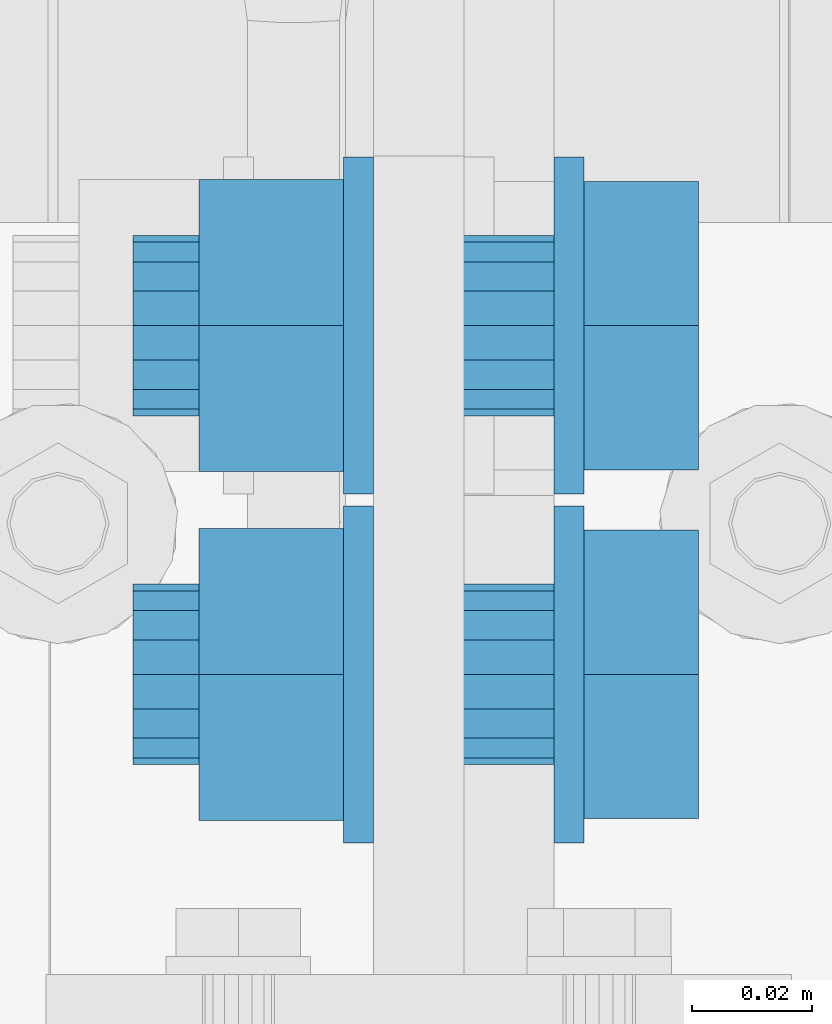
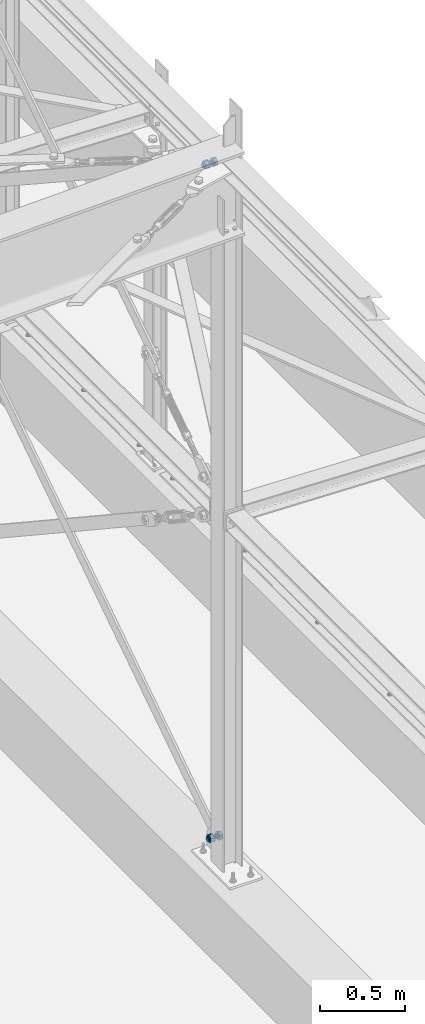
# One storey, part 147 of 476: 2 mechanical fasteners.
"""IFC2X3 building model written with IfcOpenShell, lengths in millimetres."""

from ifc_helpers import new_model, entity, si_unit, converted_unit, origin_with_axes, place, context, project, spatial, faceted_brep, element, save


model = new_model("IFC2X3")

# Units and contexts
model_context = context("Model", 3, precision=1e-09, world=origin_with_axes())
ifc_project = project(units=[si_unit("LENGTHUNIT", "METRE", prefix="MILLI"), si_unit("AREAUNIT", "SQUARE_METRE"), si_unit("VOLUMEUNIT", "CUBIC_METRE"), converted_unit("PLANEANGLEUNIT", "DEGREE", entity("IfcPlaneAngleMeasure", 0.01745329), si_unit("PLANEANGLEUNIT", "RADIAN"), dimensions=[0, 0, 0, 0, 0, 0, 0])], contexts=[model_context])

# Site, building, storey
site_placement = place(None, origin_with_axes())
site = spatial("IfcSite", under=ifc_project, at=site_placement, Name="mKR Teilneubau & Sanierung BA1 - Ostfildern", CompositionType="ELEMENT")
building_placement = place(site_placement, origin_with_axes())
building = spatial("IfcBuilding", under=site, at=building_placement, Name="Struktur 1", CompositionType="ELEMENT")
storey_placement = place(building_placement, origin_with_axes())
storey = spatial("IfcBuildingStorey", under=building, at=storey_placement, Name="Default Storey", CompositionType="ELEMENT", Elevation=0.0)

# Mechanical fasteners
mechanical_fastener_1_placement = place(None, origin_with_axes())
element("IfcMechanicalFastener", 1, at=mechanical_fastener_1_placement, inside=storey, ObjectType="-", NominalDiameter=30.0, NominalLength=75.0, context=model_context, shape_type="Brep", body=[
    faceted_brep([(21988.108765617, -9585.781922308, 5435.608171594), (21993.108765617, -9585.781922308, 5435.608171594), (21993.108765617, -9585.24391016, 5441.070700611), (21988.108765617, -9585.24391016, 5441.070700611), (21993.108765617, -9583.650549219, 5446.3233077), (21988.108765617, -9583.650549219, 5446.3233077), (21993.108765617, -9581.063071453, 5451.164138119), (21988.108765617, -9581.063071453, 5451.164138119), (21993.108765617, -9577.580912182, 5455.407161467), (21988.108765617, -9577.580912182, 5455.407161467), (21993.108765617, -9573.337888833, 5458.889320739), (21988.108765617, -9573.337888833, 5458.889320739), (21993.108765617, -9568.497058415, 5461.476798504), (21988.108765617, -9568.497058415, 5461.476798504), (21993.108765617, -9563.244451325, 5463.070159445), (21988.108765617, -9563.244451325, 5463.070159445), (21993.108765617, -9557.781922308, 5463.608171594), (21988.108765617, -9557.781922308, 5463.608171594), (21993.108765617, -9552.319393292, 5463.070159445), (21988.108765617, -9552.319393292, 5463.070159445), (21993.108765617, -9547.066786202, 5461.476798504), (21988.108765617, -9547.066786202, 5461.476798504), (21993.108765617, -9542.225955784, 5458.889320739), (21988.108765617, -9542.225955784, 5458.889320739), (21993.108765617, -9537.982932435, 5455.407161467), (21988.108765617, -9537.982932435, 5455.407161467), (21993.108765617, -9534.500773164, 5451.164138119), (21988.108765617, -9534.500773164, 5451.164138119), (21993.108765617, -9531.913295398, 5446.3233077), (21988.108765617, -9531.913295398, 5446.3233077), (21993.108765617, -9530.319934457, 5441.070700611), (21988.108765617, -9530.319934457, 5441.070700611), (21993.108765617, -9529.781922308, 5435.608171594), (21988.108765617, -9529.781922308, 5435.608171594), (21993.108765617, -9530.319934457, 5430.145642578), (21988.108765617, -9530.319934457, 5430.145642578), (21993.108765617, -9531.913295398, 5424.893035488), (21988.108765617, -9531.913295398, 5424.893035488), (21993.108765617, -9534.500773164, 5420.05220507), (21988.108765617, -9534.500773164, 5420.05220507), (21993.108765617, -9537.982932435, 5415.809181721), (21988.108765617, -9537.982932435, 5415.809181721), (21993.108765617, -9542.225955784, 5412.32702245), (21988.108765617, -9542.225955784, 5412.32702245), (21993.108765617, -9547.066786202, 5409.739544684), (21988.108765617, -9547.066786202, 5409.739544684), (21993.108765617, -9552.319393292, 5408.146183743), (21988.108765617, -9552.319393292, 5408.146183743), (21993.108765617, -9557.781922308, 5407.608171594), (21988.108765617, -9557.781922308, 5407.608171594), (21993.108765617, -9563.244451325, 5408.146183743), (21988.108765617, -9563.244451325, 5408.146183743), (21993.108765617, -9568.497058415, 5409.739544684), (21988.108765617, -9568.497058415, 5409.739544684), (21993.108765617, -9573.337888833, 5412.32702245), (21988.108765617, -9573.337888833, 5412.32702245), (21993.108765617, -9577.580912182, 5415.809181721), (21988.108765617, -9577.580912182, 5415.809181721), (21993.108765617, -9581.063071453, 5420.05220507), (21988.108765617, -9581.063071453, 5420.05220507), (21993.108765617, -9583.650549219, 5424.893035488), (21988.108765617, -9583.650549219, 5424.893035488), (21993.108765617, -9585.24391016, 5430.145642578), (21988.108765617, -9585.24391016, 5430.145642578)], [[[0, 1, 2, 3]], [[3, 2, 4, 5]], [[5, 4, 6, 7]], [[7, 6, 8, 9]], [[9, 8, 10, 11]], [[11, 10, 12, 13]], [[13, 12, 14, 15]], [[15, 14, 16, 17]], [[17, 16, 18, 19]], [[19, 18, 20, 21]], [[21, 20, 22, 23]], [[23, 22, 24, 25]], [[25, 24, 26, 27]], [[27, 26, 28, 29]], [[29, 28, 30, 31]], [[31, 30, 32, 33]], [[33, 32, 34, 35]], [[35, 34, 36, 37]], [[37, 36, 38, 39]], [[39, 38, 40, 41]], [[41, 40, 42, 43]], [[43, 42, 44, 45]], [[45, 44, 46, 47]], [[47, 46, 48, 49]], [[49, 48, 50, 51]], [[51, 50, 52, 53]], [[53, 52, 54, 55]], [[55, 54, 56, 57]], [[57, 56, 58, 59]], [[59, 58, 60, 61]], [[61, 60, 62, 63]], [[63, 62, 1, 0]], [[2, 1, 62, 60, 58, 56, 54, 52, 50, 48, 46, 44, 42, 40, 38, 36, 34, 32, 30, 28, 26, 24, 22, 20, 18, 16, 14, 12, 10, 8, 6, 4]], [[63, 0, 3, 5, 7, 9, 11, 13, 15, 17, 19, 21, 23, 25, 27, 29, 31, 33, 35, 37, 39, 41, 43, 45, 47, 49, 51, 53, 55, 57, 59, 61]]]),
    faceted_brep([(22012.108765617, -9533.806009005, 5449.450671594), (21993.108765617, -9533.806009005, 5449.450671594), (21993.108765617, -9557.781922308, 5463.293171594), (22012.108765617, -9557.781922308, 5463.293171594), (21993.108765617, -9581.757835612, 5449.450671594), (22012.108765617, -9581.757835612, 5449.450671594), (21993.108765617, -9581.757835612, 5421.765671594), (22012.108765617, -9581.757835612, 5421.765671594), (21993.108765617, -9557.781922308, 5407.923171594), (22012.108765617, -9557.781922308, 5407.923171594), (21993.108765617, -9533.806009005, 5421.765671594), (22012.108765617, -9533.806009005, 5421.765671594)], [[[0, 1, 2, 3]], [[3, 2, 4, 5]], [[5, 4, 6, 7]], [[7, 6, 8, 9]], [[9, 8, 10, 11]], [[11, 10, 1, 0]], [[3, 5, 7, 9, 11, 0]], [[2, 1, 10, 8, 6, 4]]]),
    faceted_brep([(21958.108780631, -9572.781922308, 5435.608171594), (21988.10885553, -9572.781922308, 5435.608171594), (21988.10885553, -9571.640115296, 5441.34842308), (21958.108780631, -9571.640115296, 5441.34842308), (21988.10885553, -9568.388524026, 5446.214773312), (21958.108780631, -9568.388524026, 5446.214773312), (21988.10885553, -9563.522173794, 5449.466364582), (21958.108780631, -9563.522173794, 5449.466364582), (21988.10885553, -9557.781922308, 5450.608171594), (21958.108780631, -9557.781922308, 5450.608171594), (21988.10885553, -9552.041670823, 5449.466364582), (21958.108780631, -9552.041670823, 5449.466364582), (21988.10885553, -9547.175320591, 5446.214773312), (21958.108780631, -9547.175320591, 5446.214773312), (21988.10885553, -9543.923729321, 5441.34842308), (21958.108780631, -9543.923729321, 5441.34842308), (21988.10885553, -9542.781922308, 5435.608171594), (21958.108780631, -9542.781922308, 5435.608171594), (21988.10885553, -9543.923729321, 5429.867920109), (21958.108780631, -9543.923729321, 5429.867920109), (21988.10885553, -9547.175320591, 5425.001569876), (21958.108780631, -9547.175320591, 5425.001569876), (21988.10885553, -9552.041670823, 5421.749978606), (21958.108780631, -9552.041670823, 5421.749978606), (21988.10885553, -9557.781922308, 5420.608171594), (21958.108780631, -9557.781922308, 5420.608171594), (21988.10885553, -9563.522173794, 5421.749978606), (21958.108780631, -9563.522173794, 5421.749978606), (21988.10885553, -9568.388524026, 5425.001569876), (21958.108780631, -9568.388524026, 5425.001569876), (21988.10885553, -9571.640115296, 5429.867920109), (21958.108780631, -9571.640115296, 5429.867920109)], [[[0, 1, 2, 3]], [[3, 2, 4, 5]], [[5, 4, 6, 7]], [[7, 6, 8, 9]], [[9, 8, 10, 11]], [[11, 10, 12, 13]], [[13, 12, 14, 15]], [[15, 14, 16, 17]], [[17, 16, 18, 19]], [[19, 18, 20, 21]], [[21, 20, 22, 23]], [[23, 22, 24, 25]], [[25, 24, 26, 27]], [[27, 26, 28, 29]], [[29, 28, 30, 31]], [[31, 30, 1, 0]], [[2, 1, 30, 28, 26, 24, 22, 20, 18, 16, 14, 12, 10, 8, 6, 4]], [[31, 0, 3, 5, 7, 9, 11, 13, 15, 17, 19, 21, 23, 25, 27, 29]]]),
    faceted_brep([(21953.108780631, -9585.781922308, 5435.608171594), (21958.108780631, -9585.781922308, 5435.608171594), (21958.108780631, -9585.24391016, 5441.070700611), (21953.108780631, -9585.24391016, 5441.070700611), (21958.108780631, -9583.650549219, 5446.3233077), (21953.108780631, -9583.650549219, 5446.3233077), (21958.108780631, -9581.063071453, 5451.164138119), (21953.108780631, -9581.063071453, 5451.164138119), (21958.108780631, -9577.580912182, 5455.407161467), (21953.108780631, -9577.580912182, 5455.407161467), (21958.108780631, -9573.337888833, 5458.889320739), (21953.108780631, -9573.337888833, 5458.889320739), (21958.108780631, -9568.497058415, 5461.476798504), (21953.108780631, -9568.497058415, 5461.476798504), (21958.108780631, -9563.244451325, 5463.070159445), (21953.108780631, -9563.244451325, 5463.070159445), (21958.108780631, -9557.781922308, 5463.608171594), (21953.108780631, -9557.781922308, 5463.608171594), (21958.108780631, -9552.319393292, 5463.070159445), (21953.108780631, -9552.319393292, 5463.070159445), (21958.108780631, -9547.066786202, 5461.476798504), (21953.108780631, -9547.066786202, 5461.476798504), (21958.108780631, -9542.225955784, 5458.889320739), (21953.108780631, -9542.225955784, 5458.889320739), (21958.108780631, -9537.982932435, 5455.407161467), (21953.108780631, -9537.982932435, 5455.407161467), (21958.108780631, -9534.500773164, 5451.164138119), (21953.108780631, -9534.500773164, 5451.164138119), (21958.108780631, -9531.913295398, 5446.3233077), (21953.108780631, -9531.913295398, 5446.3233077), (21958.108780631, -9530.319934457, 5441.070700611), (21953.108780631, -9530.319934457, 5441.070700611), (21958.108780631, -9529.781922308, 5435.608171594), (21953.108780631, -9529.781922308, 5435.608171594), (21958.108780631, -9530.319934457, 5430.145642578), (21953.108780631, -9530.319934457, 5430.145642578), (21958.108780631, -9531.913295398, 5424.893035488), (21953.108780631, -9531.913295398, 5424.893035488), (21958.108780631, -9534.500773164, 5420.05220507), (21953.108780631, -9534.500773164, 5420.05220507), (21958.108780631, -9537.982932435, 5415.809181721), (21953.108780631, -9537.982932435, 5415.809181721), (21958.108780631, -9542.225955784, 5412.32702245), (21953.108780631, -9542.225955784, 5412.32702245), (21958.108780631, -9547.066786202, 5409.739544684), (21953.108780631, -9547.066786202, 5409.739544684), (21958.108780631, -9552.319393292, 5408.146183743), (21953.108780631, -9552.319393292, 5408.146183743), (21958.108780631, -9557.781922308, 5407.608171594), (21953.108780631, -9557.781922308, 5407.608171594), (21958.108780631, -9563.244451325, 5408.146183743), (21953.108780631, -9563.244451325, 5408.146183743), (21958.108780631, -9568.497058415, 5409.739544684), (21953.108780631, -9568.497058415, 5409.739544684), (21958.108780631, -9573.337888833, 5412.32702245), (21953.108780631, -9573.337888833, 5412.32702245), (21958.108780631, -9577.580912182, 5415.809181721), (21953.108780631, -9577.580912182, 5415.809181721), (21958.108780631, -9581.063071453, 5420.05220507), (21953.108780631, -9581.063071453, 5420.05220507), (21958.108780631, -9583.650549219, 5424.893035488), (21953.108780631, -9583.650549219, 5424.893035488), (21958.108780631, -9585.24391016, 5430.145642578), (21953.108780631, -9585.24391016, 5430.145642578)], [[[0, 1, 2, 3]], [[3, 2, 4, 5]], [[5, 4, 6, 7]], [[7, 6, 8, 9]], [[9, 8, 10, 11]], [[11, 10, 12, 13]], [[13, 12, 14, 15]], [[15, 14, 16, 17]], [[17, 16, 18, 19]], [[19, 18, 20, 21]], [[21, 20, 22, 23]], [[23, 22, 24, 25]], [[25, 24, 26, 27]], [[27, 26, 28, 29]], [[29, 28, 30, 31]], [[31, 30, 32, 33]], [[33, 32, 34, 35]], [[35, 34, 36, 37]], [[37, 36, 38, 39]], [[39, 38, 40, 41]], [[41, 40, 42, 43]], [[43, 42, 44, 45]], [[45, 44, 46, 47]], [[47, 46, 48, 49]], [[49, 48, 50, 51]], [[51, 50, 52, 53]], [[53, 52, 54, 55]], [[55, 54, 56, 57]], [[57, 56, 58, 59]], [[59, 58, 60, 61]], [[61, 60, 62, 63]], [[63, 62, 1, 0]], [[2, 1, 62, 60, 58, 56, 54, 52, 50, 48, 46, 44, 42, 40, 38, 36, 34, 32, 30, 28, 26, 24, 22, 20, 18, 16, 14, 12, 10, 8, 6, 4]], [[63, 0, 3, 5, 7, 9, 11, 13, 15, 17, 19, 21, 23, 25, 27, 29, 31, 33, 35, 37, 39, 41, 43, 45, 47, 49, 51, 53, 55, 57, 59, 61]]]),
    faceted_brep([(21953.108780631, -9533.533211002, 5449.608171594), (21929.108780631, -9533.533211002, 5449.608171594), (21929.108780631, -9557.781922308, 5463.608171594), (21953.108780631, -9557.781922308, 5463.608171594), (21929.108780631, -9582.030633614, 5449.608171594), (21953.108780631, -9582.030633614, 5449.608171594), (21929.108780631, -9582.030633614, 5421.608171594), (21953.108780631, -9582.030633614, 5421.608171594), (21929.108780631, -9557.781922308, 5407.608171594), (21953.108780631, -9557.781922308, 5407.608171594), (21929.108780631, -9533.533211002, 5421.608171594), (21953.108780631, -9533.533211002, 5421.608171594)], [[[0, 1, 2, 3]], [[3, 2, 4, 5]], [[5, 4, 6, 7]], [[7, 6, 8, 9]], [[9, 8, 10, 11]], [[11, 10, 1, 0]], [[3, 5, 7, 9, 11, 0]], [[2, 1, 10, 8, 6, 4]]]),
    faceted_brep([(21918.108765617, -9572.781922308, 5435.608171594), (21929.108765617, -9572.781922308, 5435.608171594), (21929.108765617, -9571.640115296, 5441.34842308), (21918.108765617, -9571.640115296, 5441.34842308), (21929.108765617, -9568.388524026, 5446.214773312), (21918.108765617, -9568.388524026, 5446.214773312), (21929.108765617, -9563.522173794, 5449.466364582), (21918.108765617, -9563.522173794, 5449.466364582), (21929.108765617, -9557.781922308, 5450.608171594), (21918.108765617, -9557.781922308, 5450.608171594), (21929.108765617, -9552.041670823, 5449.466364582), (21918.108765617, -9552.041670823, 5449.466364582), (21929.108765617, -9547.175320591, 5446.214773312), (21918.108765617, -9547.175320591, 5446.214773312), (21929.108765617, -9543.923729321, 5441.34842308), (21918.108765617, -9543.923729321, 5441.34842308), (21929.108765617, -9542.781922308, 5435.608171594), (21918.108765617, -9542.781922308, 5435.608171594), (21929.108765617, -9543.923729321, 5429.867920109), (21918.108765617, -9543.923729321, 5429.867920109), (21929.108765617, -9547.175320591, 5425.001569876), (21918.108765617, -9547.175320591, 5425.001569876), (21929.108765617, -9552.041670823, 5421.749978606), (21918.108765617, -9552.041670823, 5421.749978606), (21929.108765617, -9557.781922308, 5420.608171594), (21918.108765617, -9557.781922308, 5420.608171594), (21929.108765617, -9563.522173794, 5421.749978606), (21918.108765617, -9563.522173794, 5421.749978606), (21929.108765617, -9568.388524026, 5425.001569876), (21918.108765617, -9568.388524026, 5425.001569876), (21929.108765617, -9571.640115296, 5429.867920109), (21918.108765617, -9571.640115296, 5429.867920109)], [[[0, 1, 2, 3]], [[3, 2, 4, 5]], [[5, 4, 6, 7]], [[7, 6, 8, 9]], [[9, 8, 10, 11]], [[11, 10, 12, 13]], [[13, 12, 14, 15]], [[15, 14, 16, 17]], [[17, 16, 18, 19]], [[19, 18, 20, 21]], [[21, 20, 22, 23]], [[23, 22, 24, 25]], [[25, 24, 26, 27]], [[27, 26, 28, 29]], [[29, 28, 30, 31]], [[31, 30, 1, 0]], [[2, 1, 30, 28, 26, 24, 22, 20, 18, 16, 14, 12, 10, 8, 6, 4]], [[31, 0, 3, 5, 7, 9, 11, 13, 15, 17, 19, 21, 23, 25, 27, 29]]]),
])
mechanical_fastener_2_placement = place(None, origin_with_axes())
element("IfcMechanicalFastener", 2, at=mechanical_fastener_2_placement, inside=storey, ObjectType="-", NominalDiameter=30.0, NominalLength=75.0, context=model_context, shape_type="Brep", body=[
    faceted_brep([(21988.110161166, -9643.784342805, 644.074930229), (21993.110161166, -9643.784342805, 644.074930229), (21993.110161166, -9643.246330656, 649.537459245), (21988.110161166, -9643.246330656, 649.537459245), (21993.110161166, -9641.652969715, 654.790066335), (21988.110161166, -9641.652969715, 654.790066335), (21993.110161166, -9639.065491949, 659.630896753), (21988.110161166, -9639.065491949, 659.630896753), (21993.110161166, -9635.583332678, 663.873920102), (21988.110161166, -9635.583332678, 663.873920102), (21993.110161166, -9631.340309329, 667.356079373), (21988.110161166, -9631.340309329, 667.356079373), (21993.110161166, -9626.499478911, 669.943557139), (21988.110161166, -9626.499478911, 669.943557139), (21993.110161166, -9621.246871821, 671.53691808), (21988.110161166, -9621.246871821, 671.53691808), (21993.110161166, -9615.784342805, 672.074930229), (21988.110161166, -9615.784342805, 672.074930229), (21993.110161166, -9610.321813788, 671.53691808), (21988.110161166, -9610.321813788, 671.53691808), (21993.110161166, -9605.069206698, 669.943557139), (21988.110161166, -9605.069206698, 669.943557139), (21993.110161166, -9600.22837628, 667.356079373), (21988.110161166, -9600.22837628, 667.356079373), (21993.110161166, -9595.985352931, 663.873920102), (21988.110161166, -9595.985352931, 663.873920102), (21993.110161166, -9592.50319366, 659.630896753), (21988.110161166, -9592.50319366, 659.630896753), (21993.110161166, -9589.915715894, 654.790066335), (21988.110161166, -9589.915715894, 654.790066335), (21993.110161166, -9588.322354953, 649.537459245), (21988.110161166, -9588.322354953, 649.537459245), (21993.110161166, -9587.784342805, 644.074930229), (21988.110161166, -9587.784342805, 644.074930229), (21993.110161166, -9588.322354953, 638.612401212), (21988.110161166, -9588.322354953, 638.612401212), (21993.110161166, -9589.915715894, 633.359794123), (21988.110161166, -9589.915715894, 633.359794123), (21993.110161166, -9592.50319366, 628.518963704), (21988.110161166, -9592.50319366, 628.518963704), (21993.110161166, -9595.985352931, 624.275940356), (21988.110161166, -9595.985352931, 624.275940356), (21993.110161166, -9600.22837628, 620.793781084), (21988.110161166, -9600.22837628, 620.793781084), (21993.110161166, -9605.069206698, 618.206303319), (21988.110161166, -9605.069206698, 618.206303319), (21993.110161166, -9610.321813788, 616.612942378), (21988.110161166, -9610.321813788, 616.612942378), (21993.110161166, -9615.784342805, 616.074930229), (21988.110161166, -9615.784342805, 616.074930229), (21993.110161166, -9621.246871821, 616.612942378), (21988.110161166, -9621.246871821, 616.612942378), (21993.110161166, -9626.499478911, 618.206303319), (21988.110161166, -9626.499478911, 618.206303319), (21993.110161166, -9631.340309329, 620.793781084), (21988.110161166, -9631.340309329, 620.793781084), (21993.110161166, -9635.583332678, 624.275940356), (21988.110161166, -9635.583332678, 624.275940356), (21993.110161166, -9639.065491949, 628.518963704), (21988.110161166, -9639.065491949, 628.518963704), (21993.110161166, -9641.652969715, 633.359794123), (21988.110161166, -9641.652969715, 633.359794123), (21993.110161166, -9643.246330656, 638.612401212), (21988.110161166, -9643.246330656, 638.612401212)], [[[0, 1, 2, 3]], [[3, 2, 4, 5]], [[5, 4, 6, 7]], [[7, 6, 8, 9]], [[9, 8, 10, 11]], [[11, 10, 12, 13]], [[13, 12, 14, 15]], [[15, 14, 16, 17]], [[17, 16, 18, 19]], [[19, 18, 20, 21]], [[21, 20, 22, 23]], [[23, 22, 24, 25]], [[25, 24, 26, 27]], [[27, 26, 28, 29]], [[29, 28, 30, 31]], [[31, 30, 32, 33]], [[33, 32, 34, 35]], [[35, 34, 36, 37]], [[37, 36, 38, 39]], [[39, 38, 40, 41]], [[41, 40, 42, 43]], [[43, 42, 44, 45]], [[45, 44, 46, 47]], [[47, 46, 48, 49]], [[49, 48, 50, 51]], [[51, 50, 52, 53]], [[53, 52, 54, 55]], [[55, 54, 56, 57]], [[57, 56, 58, 59]], [[59, 58, 60, 61]], [[61, 60, 62, 63]], [[63, 62, 1, 0]], [[2, 1, 62, 60, 58, 56, 54, 52, 50, 48, 46, 44, 42, 40, 38, 36, 34, 32, 30, 28, 26, 24, 22, 20, 18, 16, 14, 12, 10, 8, 6, 4]], [[63, 0, 3, 5, 7, 9, 11, 13, 15, 17, 19, 21, 23, 25, 27, 29, 31, 33, 35, 37, 39, 41, 43, 45, 47, 49, 51, 53, 55, 57, 59, 61]]]),
    faceted_brep([(22012.110161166, -9591.808429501, 657.917430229), (21993.110161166, -9591.808429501, 657.917430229), (21993.110161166, -9615.784342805, 671.759930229), (22012.110161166, -9615.784342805, 671.759930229), (21993.110161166, -9639.760256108, 657.917430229), (22012.110161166, -9639.760256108, 657.917430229), (21993.110161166, -9639.760256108, 630.232430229), (22012.110161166, -9639.760256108, 630.232430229), (21993.110161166, -9615.784342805, 616.389930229), (22012.110161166, -9615.784342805, 616.389930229), (21993.110161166, -9591.808429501, 630.232430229), (22012.110161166, -9591.808429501, 630.232430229)], [[[0, 1, 2, 3]], [[3, 2, 4, 5]], [[5, 4, 6, 7]], [[7, 6, 8, 9]], [[9, 8, 10, 11]], [[11, 10, 1, 0]], [[3, 5, 7, 9, 11, 0]], [[2, 1, 10, 8, 6, 4]]]),
    faceted_brep([(21958.108764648, -9630.784342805, 644.074930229), (21988.109804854, -9630.784342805, 644.074930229), (21988.109804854, -9629.642535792, 649.815181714), (21958.108764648, -9629.642535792, 649.815181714), (21988.109804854, -9626.390944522, 654.681531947), (21958.108764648, -9626.390944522, 654.681531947), (21988.109804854, -9621.52459429, 657.933123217), (21958.108764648, -9621.52459429, 657.933123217), (21988.109804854, -9615.784342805, 659.074930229), (21958.108764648, -9615.784342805, 659.074930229), (21988.109804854, -9610.044091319, 657.933123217), (21958.108764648, -9610.044091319, 657.933123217), (21988.109804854, -9605.177741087, 654.681531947), (21958.108764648, -9605.177741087, 654.681531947), (21988.109804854, -9601.926149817, 649.815181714), (21958.108764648, -9601.926149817, 649.815181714), (21988.109804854, -9600.784342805, 644.074930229), (21958.108764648, -9600.784342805, 644.074930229), (21988.109804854, -9601.926149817, 638.334678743), (21958.108764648, -9601.926149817, 638.334678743), (21988.109804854, -9605.177741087, 633.468328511), (21958.108764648, -9605.177741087, 633.468328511), (21988.109804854, -9610.044091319, 630.216737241), (21958.108764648, -9610.044091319, 630.216737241), (21988.109804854, -9615.784342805, 629.074930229), (21958.108764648, -9615.784342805, 629.074930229), (21988.109804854, -9621.52459429, 630.216737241), (21958.108764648, -9621.52459429, 630.216737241), (21988.109804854, -9626.390944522, 633.468328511), (21958.108764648, -9626.390944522, 633.468328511), (21988.109804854, -9629.642535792, 638.334678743), (21958.108764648, -9629.642535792, 638.334678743)], [[[0, 1, 2, 3]], [[3, 2, 4, 5]], [[5, 4, 6, 7]], [[7, 6, 8, 9]], [[9, 8, 10, 11]], [[11, 10, 12, 13]], [[13, 12, 14, 15]], [[15, 14, 16, 17]], [[17, 16, 18, 19]], [[19, 18, 20, 21]], [[21, 20, 22, 23]], [[23, 22, 24, 25]], [[25, 24, 26, 27]], [[27, 26, 28, 29]], [[29, 28, 30, 31]], [[31, 30, 1, 0]], [[2, 1, 30, 28, 26, 24, 22, 20, 18, 16, 14, 12, 10, 8, 6, 4]], [[31, 0, 3, 5, 7, 9, 11, 13, 15, 17, 19, 21, 23, 25, 27, 29]]]),
    faceted_brep([(21953.108764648, -9643.784342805, 644.074930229), (21958.108764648, -9643.784342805, 644.074930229), (21958.108764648, -9643.246330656, 649.537459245), (21953.108764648, -9643.246330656, 649.537459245), (21958.108764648, -9641.652969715, 654.790066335), (21953.108764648, -9641.652969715, 654.790066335), (21958.108764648, -9639.065491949, 659.630896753), (21953.108764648, -9639.065491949, 659.630896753), (21958.108764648, -9635.583332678, 663.873920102), (21953.108764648, -9635.583332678, 663.873920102), (21958.108764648, -9631.340309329, 667.356079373), (21953.108764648, -9631.340309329, 667.356079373), (21958.108764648, -9626.499478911, 669.943557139), (21953.108764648, -9626.499478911, 669.943557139), (21958.108764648, -9621.246871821, 671.53691808), (21953.108764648, -9621.246871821, 671.53691808), (21958.108764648, -9615.784342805, 672.074930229), (21953.108764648, -9615.784342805, 672.074930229), (21958.108764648, -9610.321813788, 671.53691808), (21953.108764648, -9610.321813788, 671.53691808), (21958.108764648, -9605.069206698, 669.943557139), (21953.108764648, -9605.069206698, 669.943557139), (21958.108764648, -9600.22837628, 667.356079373), (21953.108764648, -9600.22837628, 667.356079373), (21958.108764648, -9595.985352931, 663.873920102), (21953.108764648, -9595.985352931, 663.873920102), (21958.108764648, -9592.50319366, 659.630896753), (21953.108764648, -9592.50319366, 659.630896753), (21958.108764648, -9589.915715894, 654.790066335), (21953.108764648, -9589.915715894, 654.790066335), (21958.108764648, -9588.322354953, 649.537459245), (21953.108764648, -9588.322354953, 649.537459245), (21958.108764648, -9587.784342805, 644.074930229), (21953.108764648, -9587.784342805, 644.074930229), (21958.108764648, -9588.322354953, 638.612401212), (21953.108764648, -9588.322354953, 638.612401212), (21958.108764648, -9589.915715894, 633.359794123), (21953.108764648, -9589.915715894, 633.359794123), (21958.108764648, -9592.50319366, 628.518963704), (21953.108764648, -9592.50319366, 628.518963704), (21958.108764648, -9595.985352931, 624.275940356), (21953.108764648, -9595.985352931, 624.275940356), (21958.108764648, -9600.22837628, 620.793781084), (21953.108764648, -9600.22837628, 620.793781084), (21958.108764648, -9605.069206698, 618.206303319), (21953.108764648, -9605.069206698, 618.206303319), (21958.108764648, -9610.321813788, 616.612942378), (21953.108764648, -9610.321813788, 616.612942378), (21958.108764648, -9615.784342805, 616.074930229), (21953.108764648, -9615.784342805, 616.074930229), (21958.108764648, -9621.246871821, 616.612942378), (21953.108764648, -9621.246871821, 616.612942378), (21958.108764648, -9626.499478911, 618.206303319), (21953.108764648, -9626.499478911, 618.206303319), (21958.108764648, -9631.340309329, 620.793781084), (21953.108764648, -9631.340309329, 620.793781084), (21958.108764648, -9635.583332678, 624.275940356), (21953.108764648, -9635.583332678, 624.275940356), (21958.108764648, -9639.065491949, 628.518963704), (21953.108764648, -9639.065491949, 628.518963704), (21958.108764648, -9641.652969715, 633.359794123), (21953.108764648, -9641.652969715, 633.359794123), (21958.108764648, -9643.246330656, 638.612401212), (21953.108764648, -9643.246330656, 638.612401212)], [[[0, 1, 2, 3]], [[3, 2, 4, 5]], [[5, 4, 6, 7]], [[7, 6, 8, 9]], [[9, 8, 10, 11]], [[11, 10, 12, 13]], [[13, 12, 14, 15]], [[15, 14, 16, 17]], [[17, 16, 18, 19]], [[19, 18, 20, 21]], [[21, 20, 22, 23]], [[23, 22, 24, 25]], [[25, 24, 26, 27]], [[27, 26, 28, 29]], [[29, 28, 30, 31]], [[31, 30, 32, 33]], [[33, 32, 34, 35]], [[35, 34, 36, 37]], [[37, 36, 38, 39]], [[39, 38, 40, 41]], [[41, 40, 42, 43]], [[43, 42, 44, 45]], [[45, 44, 46, 47]], [[47, 46, 48, 49]], [[49, 48, 50, 51]], [[51, 50, 52, 53]], [[53, 52, 54, 55]], [[55, 54, 56, 57]], [[57, 56, 58, 59]], [[59, 58, 60, 61]], [[61, 60, 62, 63]], [[63, 62, 1, 0]], [[2, 1, 62, 60, 58, 56, 54, 52, 50, 48, 46, 44, 42, 40, 38, 36, 34, 32, 30, 28, 26, 24, 22, 20, 18, 16, 14, 12, 10, 8, 6, 4]], [[63, 0, 3, 5, 7, 9, 11, 13, 15, 17, 19, 21, 23, 25, 27, 29, 31, 33, 35, 37, 39, 41, 43, 45, 47, 49, 51, 53, 55, 57, 59, 61]]]),
    faceted_brep([(21953.108764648, -9591.535631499, 658.074930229), (21929.108764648, -9591.535631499, 658.074930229), (21929.108764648, -9615.784342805, 672.074930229), (21953.108764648, -9615.784342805, 672.074930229), (21929.108764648, -9640.03305411, 658.074930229), (21953.108764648, -9640.03305411, 658.074930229), (21929.108764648, -9640.03305411, 630.074930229), (21953.108764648, -9640.03305411, 630.074930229), (21929.108764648, -9615.784342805, 616.074930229), (21953.108764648, -9615.784342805, 616.074930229), (21929.108764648, -9591.535631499, 630.074930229), (21953.108764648, -9591.535631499, 630.074930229)], [[[0, 1, 2, 3]], [[3, 2, 4, 5]], [[5, 4, 6, 7]], [[7, 6, 8, 9]], [[9, 8, 10, 11]], [[11, 10, 1, 0]], [[3, 5, 7, 9, 11, 0]], [[2, 1, 10, 8, 6, 4]]]),
    faceted_brep([(21918.110161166, -9630.784342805, 644.074930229), (21929.109120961, -9630.784342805, 644.074930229), (21929.109120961, -9629.642535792, 649.815181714), (21918.110161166, -9629.642535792, 649.815181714), (21929.109120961, -9626.390944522, 654.681531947), (21918.110161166, -9626.390944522, 654.681531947), (21929.109120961, -9621.52459429, 657.933123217), (21918.110161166, -9621.52459429, 657.933123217), (21929.109120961, -9615.784342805, 659.074930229), (21918.110161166, -9615.784342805, 659.074930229), (21929.109120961, -9610.044091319, 657.933123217), (21918.110161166, -9610.044091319, 657.933123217), (21929.109120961, -9605.177741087, 654.681531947), (21918.110161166, -9605.177741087, 654.681531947), (21929.109120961, -9601.926149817, 649.815181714), (21918.110161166, -9601.926149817, 649.815181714), (21929.109120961, -9600.784342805, 644.074930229), (21918.110161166, -9600.784342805, 644.074930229), (21929.109120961, -9601.926149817, 638.334678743), (21918.110161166, -9601.926149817, 638.334678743), (21929.109120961, -9605.177741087, 633.468328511), (21918.110161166, -9605.177741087, 633.468328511), (21929.109120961, -9610.044091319, 630.216737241), (21918.110161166, -9610.044091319, 630.216737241), (21929.109120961, -9615.784342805, 629.074930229), (21918.110161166, -9615.784342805, 629.074930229), (21929.109120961, -9621.52459429, 630.216737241), (21918.110161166, -9621.52459429, 630.216737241), (21929.109120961, -9626.390944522, 633.468328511), (21918.110161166, -9626.390944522, 633.468328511), (21929.109120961, -9629.642535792, 638.334678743), (21918.110161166, -9629.642535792, 638.334678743)], [[[0, 1, 2, 3]], [[3, 2, 4, 5]], [[5, 4, 6, 7]], [[7, 6, 8, 9]], [[9, 8, 10, 11]], [[11, 10, 12, 13]], [[13, 12, 14, 15]], [[15, 14, 16, 17]], [[17, 16, 18, 19]], [[19, 18, 20, 21]], [[21, 20, 22, 23]], [[23, 22, 24, 25]], [[25, 24, 26, 27]], [[27, 26, 28, 29]], [[29, 28, 30, 31]], [[31, 30, 1, 0]], [[2, 1, 30, 28, 26, 24, 22, 20, 18, 16, 14, 12, 10, 8, 6, 4]], [[31, 0, 3, 5, 7, 9, 11, 13, 15, 17, 19, 21, 23, 25, 27, 29]]]),
])

save(model, "model.ifc")
